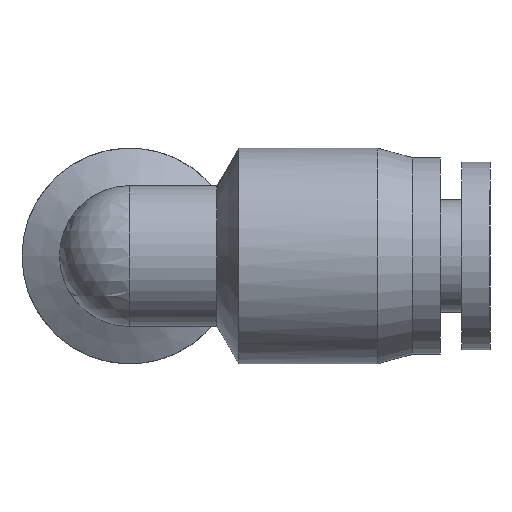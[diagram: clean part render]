
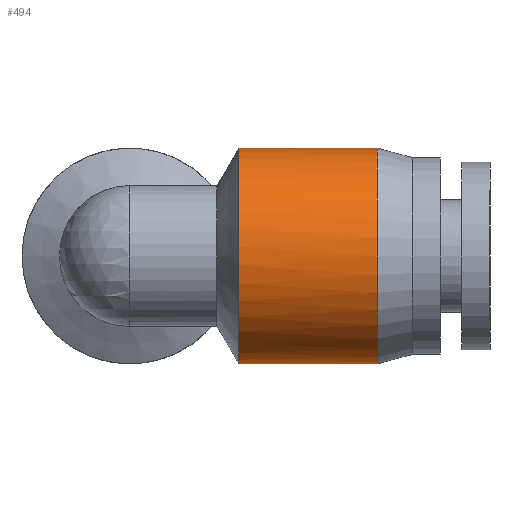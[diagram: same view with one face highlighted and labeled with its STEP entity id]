
A CAD part, left-side view. The second image highlights one B-rep face of the part: STEP entity #494.
In plain terms, the highlighted cylindrical face has radius 5.75 mm (diameter 11.5 mm), a full revolution.
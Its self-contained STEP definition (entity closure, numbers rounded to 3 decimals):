
#332=CARTESIAN_POINT('',(5.701,-5.8,0.75));
#333=VERTEX_POINT('',#332);
#347=CARTESIAN_POINT('',(5.701,-6.32,0.75));
#348=VERTEX_POINT('',#347);
#349=CARTESIAN_POINT('',(5.701,-6.32,0.75));
#350=DIRECTION('',(0.0,1.0,0.0));
#351=VECTOR('',#350,0.52);
#352=LINE('',#349,#351);
#353=EDGE_CURVE('',#348,#333,#352,.T.);
#379=CARTESIAN_POINT('',(5.701,-6.32,-0.75));
#380=VERTEX_POINT('',#379);
#381=CARTESIAN_POINT('',(0.,-12.021,0.0));
#382=DIRECTION('',(0.707,-0.707,0.0));
#383=DIRECTION('',(0.707,0.707,0.0));
#384=AXIS2_PLACEMENT_3D('',#381,#382,#383);
#385=ELLIPSE('',#384,8.132,5.75);
#386=EDGE_CURVE('',#380,#348,#385,.T.);
#411=CARTESIAN_POINT('',(5.701,-5.8,-0.75));
#412=VERTEX_POINT('',#411);
#413=CARTESIAN_POINT('',(5.701,-5.8,-0.75));
#414=DIRECTION('',(0.0,-1.0,0.0));
#415=VECTOR('',#414,0.52);
#416=LINE('',#413,#415);
#417=EDGE_CURVE('',#412,#380,#416,.T.);
#466=CARTESIAN_POINT('',(0.,-9.5,0.0));
#467=DIRECTION('',(0.,-1.0,0.0));
#468=DIRECTION('',(1.0,0.0,0.0));
#469=AXIS2_PLACEMENT_3D('',#466,#467,#468);
#470=CYLINDRICAL_SURFACE('',#469,5.75);
#471=ORIENTED_EDGE('',*,*,#417,.T.);
#472=ORIENTED_EDGE('',*,*,#386,.T.);
#473=ORIENTED_EDGE('',*,*,#353,.T.);
#474=CARTESIAN_POINT('',(0.,-5.8,0.0));
#475=DIRECTION('',(0.0,-1.0,0.0));
#476=DIRECTION('',(1.0,0.0,0.0));
#477=AXIS2_PLACEMENT_3D('',#474,#475,#476);
#478=CIRCLE('',#477,5.75);
#479=EDGE_CURVE('',#333,#412,#478,.T.);
#480=ORIENTED_EDGE('',*,*,#479,.T.);
#481=EDGE_LOOP('',(#471,#472,#473,#480));
#482=FACE_OUTER_BOUND('',#481,.T.);
#483=CARTESIAN_POINT('',(5.75,-13.2,0.0));
#484=VERTEX_POINT('',#483);
#485=CARTESIAN_POINT('',(0.,-13.2,0.0));
#486=DIRECTION('',(0.0,-1.0,0.0));
#487=DIRECTION('',(1.0,0.0,0.0));
#488=AXIS2_PLACEMENT_3D('',#485,#486,#487);
#489=CIRCLE('',#488,5.75);
#490=EDGE_CURVE('',#484,#484,#489,.T.);
#491=ORIENTED_EDGE('',*,*,#490,.F.);
#492=EDGE_LOOP('',(#491));
#493=FACE_BOUND('',#492,.T.);
#494=ADVANCED_FACE('',(#482,#493),#470,.T.);
